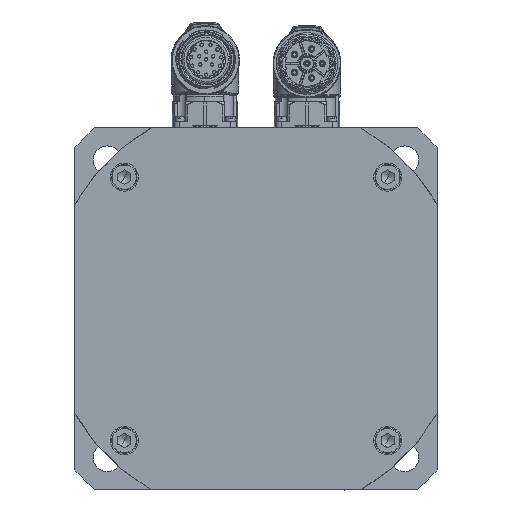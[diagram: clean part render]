
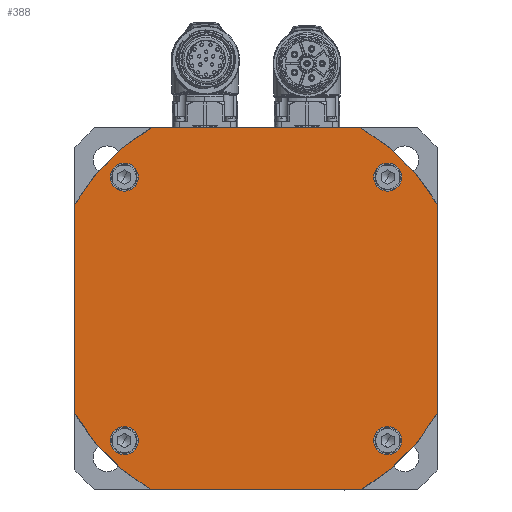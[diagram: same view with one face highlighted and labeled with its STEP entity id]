
A CAD part, left-side view. The second image highlights one B-rep face of the part: STEP entity #388.
In plain terms, the highlighted planar face has unit normal (-1, 0, 0).
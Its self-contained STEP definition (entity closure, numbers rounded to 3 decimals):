
#80=CARTESIAN_POINT('Cartesian Point',(0.,71.,41.024)) ;
#83=CARTESIAN_POINT('Axis2P3D Location',(0.,0.,0.)) ;
#87=CARTESIAN_POINT('Cartesian Point',(0.,41.024,71.)) ;
#246=CARTESIAN_POINT('Cartesian Point',(0.,71.,-41.024)) ;
#249=CARTESIAN_POINT('Line Origine',(0.,71.,0.)) ;
#261=CARTESIAN_POINT('Axis2P3D Location',(0.,0.,0.)) ;
#266=CARTESIAN_POINT('Line Origine',(0.,-71.,0.)) ;
#270=CARTESIAN_POINT('Cartesian Point',(0.,-71.,41.024)) ;
#272=CARTESIAN_POINT('Cartesian Point',(0.,-71.,-41.024)) ;
#275=CARTESIAN_POINT('Axis2P3D Location',(0.,0.,0.)) ;
#279=CARTESIAN_POINT('Cartesian Point',(0.,-41.024,71.)) ;
#282=CARTESIAN_POINT('Line Origine',(0.,0.,71.)) ;
#287=CARTESIAN_POINT('Axis2P3D Location',(0.,0.,0.)) ;
#291=CARTESIAN_POINT('Cartesian Point',(0.,41.024,-71.)) ;
#294=CARTESIAN_POINT('Line Origine',(0.,0.,-71.)) ;
#298=CARTESIAN_POINT('Cartesian Point',(0.,-41.024,-71.)) ;
#301=CARTESIAN_POINT('Axis2P3D Location',(0.,0.,0.)) ;
#316=CARTESIAN_POINT('Axis2P3D Location',(0.,-51.619,51.619)) ;
#320=CARTESIAN_POINT('Cartesian Point',(0.,-57.119,51.619)) ;
#322=CARTESIAN_POINT('Cartesian Point',(0.,-46.119,51.619)) ;
#325=CARTESIAN_POINT('Axis2P3D Location',(0.,-51.619,51.619)) ;
#334=CARTESIAN_POINT('Axis2P3D Location',(0.,51.619,51.619)) ;
#338=CARTESIAN_POINT('Cartesian Point',(0.,57.119,51.619)) ;
#340=CARTESIAN_POINT('Cartesian Point',(0.,46.119,51.619)) ;
#343=CARTESIAN_POINT('Axis2P3D Location',(0.,51.619,51.619)) ;
#352=CARTESIAN_POINT('Axis2P3D Location',(0.,-51.619,-51.619)) ;
#356=CARTESIAN_POINT('Cartesian Point',(0.,-57.119,-51.619)) ;
#358=CARTESIAN_POINT('Cartesian Point',(0.,-46.119,-51.619)) ;
#361=CARTESIAN_POINT('Axis2P3D Location',(0.,-51.619,-51.619)) ;
#370=CARTESIAN_POINT('Axis2P3D Location',(0.,51.619,-51.619)) ;
#374=CARTESIAN_POINT('Cartesian Point',(0.,57.119,-51.619)) ;
#376=CARTESIAN_POINT('Cartesian Point',(0.,46.119,-51.619)) ;
#379=CARTESIAN_POINT('Axis2P3D Location',(0.,51.619,-51.619)) ;
#84=DIRECTION('Axis2P3D Direction',(1.,0.,0.)) ;
#250=DIRECTION('Vector Direction',(0.,0.,1.)) ;
#262=DIRECTION('Axis2P3D Direction',(1.,0.,0.)) ;
#263=DIRECTION('Axis2P3D XDirection',(0.,1.,0.)) ;
#267=DIRECTION('Vector Direction',(0.,0.,-1.)) ;
#276=DIRECTION('Axis2P3D Direction',(1.,0.,0.)) ;
#283=DIRECTION('Vector Direction',(0.,1.,0.)) ;
#288=DIRECTION('Axis2P3D Direction',(1.,0.,0.)) ;
#295=DIRECTION('Vector Direction',(0.,-1.,0.)) ;
#302=DIRECTION('Axis2P3D Direction',(1.,0.,0.)) ;
#317=DIRECTION('Axis2P3D Direction',(1.,0.,0.)) ;
#326=DIRECTION('Axis2P3D Direction',(1.,0.,0.)) ;
#335=DIRECTION('Axis2P3D Direction',(1.,0.,0.)) ;
#344=DIRECTION('Axis2P3D Direction',(1.,0.,0.)) ;
#353=DIRECTION('Axis2P3D Direction',(1.,0.,0.)) ;
#362=DIRECTION('Axis2P3D Direction',(1.,0.,0.)) ;
#371=DIRECTION('Axis2P3D Direction',(1.,0.,0.)) ;
#380=DIRECTION('Axis2P3D Direction',(1.,0.,0.)) ;
#85=AXIS2_PLACEMENT_3D('Circle Axis2P3D',#83,#84,$) ;
#264=AXIS2_PLACEMENT_3D('Plane Axis2P3D',#261,#262,#263) ;
#277=AXIS2_PLACEMENT_3D('Circle Axis2P3D',#275,#276,$) ;
#289=AXIS2_PLACEMENT_3D('Circle Axis2P3D',#287,#288,$) ;
#303=AXIS2_PLACEMENT_3D('Circle Axis2P3D',#301,#302,$) ;
#318=AXIS2_PLACEMENT_3D('Circle Axis2P3D',#316,#317,$) ;
#327=AXIS2_PLACEMENT_3D('Circle Axis2P3D',#325,#326,$) ;
#336=AXIS2_PLACEMENT_3D('Circle Axis2P3D',#334,#335,$) ;
#345=AXIS2_PLACEMENT_3D('Circle Axis2P3D',#343,#344,$) ;
#354=AXIS2_PLACEMENT_3D('Circle Axis2P3D',#352,#353,$) ;
#363=AXIS2_PLACEMENT_3D('Circle Axis2P3D',#361,#362,$) ;
#372=AXIS2_PLACEMENT_3D('Circle Axis2P3D',#370,#371,$) ;
#381=AXIS2_PLACEMENT_3D('Circle Axis2P3D',#379,#380,$) ;
#307=ORIENTED_EDGE('Oriented Edge',*,*,#274,.F.) ;
#308=ORIENTED_EDGE('Oriented Edge',*,*,#281,.F.) ;
#309=ORIENTED_EDGE('Oriented Edge',*,*,#286,.F.) ;
#310=ORIENTED_EDGE('Oriented Edge',*,*,#89,.F.) ;
#311=ORIENTED_EDGE('Oriented Edge',*,*,#253,.F.) ;
#312=ORIENTED_EDGE('Oriented Edge',*,*,#293,.F.) ;
#313=ORIENTED_EDGE('Oriented Edge',*,*,#300,.F.) ;
#314=ORIENTED_EDGE('Oriented Edge',*,*,#305,.F.) ;
#331=ORIENTED_EDGE('Oriented Edge',*,*,#324,.F.) ;
#332=ORIENTED_EDGE('Oriented Edge',*,*,#329,.F.) ;
#349=ORIENTED_EDGE('Oriented Edge',*,*,#342,.F.) ;
#350=ORIENTED_EDGE('Oriented Edge',*,*,#347,.F.) ;
#367=ORIENTED_EDGE('Oriented Edge',*,*,#360,.F.) ;
#368=ORIENTED_EDGE('Oriented Edge',*,*,#365,.F.) ;
#385=ORIENTED_EDGE('Oriented Edge',*,*,#378,.F.) ;
#386=ORIENTED_EDGE('Oriented Edge',*,*,#383,.F.) ;
#333=FACE_BOUND('Face Bound',#330,.T.) ;
#351=FACE_BOUND('Face Bound',#348,.T.) ;
#369=FACE_BOUND('Face Bound',#366,.T.) ;
#387=FACE_BOUND('Face Bound',#384,.T.) ;
#251=VECTOR('Line Direction',#250,1.) ;
#268=VECTOR('Line Direction',#267,1.) ;
#284=VECTOR('Line Direction',#283,1.) ;
#296=VECTOR('Line Direction',#295,1.) ;
#388=ADVANCED_FACE('',(#315,#333,#351,#369,#387),#265,.F.) ;
#86=CIRCLE('generated circle',#85,82.) ;
#278=CIRCLE('generated circle',#277,82.) ;
#290=CIRCLE('generated circle',#289,82.) ;
#304=CIRCLE('generated circle',#303,82.) ;
#319=CIRCLE('generated circle',#318,5.5) ;
#328=CIRCLE('generated circle',#327,5.5) ;
#337=CIRCLE('generated circle',#336,5.5) ;
#346=CIRCLE('generated circle',#345,5.5) ;
#355=CIRCLE('generated circle',#354,5.5) ;
#364=CIRCLE('generated circle',#363,5.5) ;
#373=CIRCLE('generated circle',#372,5.5) ;
#382=CIRCLE('generated circle',#381,5.5) ;
#89=EDGE_CURVE('',#81,#88,#86,.T.) ;
#253=EDGE_CURVE('',#247,#81,#252,.T.) ;
#274=EDGE_CURVE('',#271,#273,#269,.T.) ;
#281=EDGE_CURVE('',#280,#271,#278,.T.) ;
#286=EDGE_CURVE('',#88,#280,#285,.F.) ;
#293=EDGE_CURVE('',#292,#247,#290,.T.) ;
#300=EDGE_CURVE('',#299,#292,#297,.F.) ;
#305=EDGE_CURVE('',#273,#299,#304,.T.) ;
#324=EDGE_CURVE('',#321,#323,#319,.F.) ;
#329=EDGE_CURVE('',#323,#321,#328,.F.) ;
#342=EDGE_CURVE('',#339,#341,#337,.F.) ;
#347=EDGE_CURVE('',#341,#339,#346,.F.) ;
#360=EDGE_CURVE('',#357,#359,#355,.F.) ;
#365=EDGE_CURVE('',#359,#357,#364,.F.) ;
#378=EDGE_CURVE('',#375,#377,#373,.F.) ;
#383=EDGE_CURVE('',#377,#375,#382,.F.) ;
#306=EDGE_LOOP('Oriented Loop',(#307,#308,#309,#310,#311,#312,#313,#314)) ;
#330=EDGE_LOOP('Oriented Loop',(#331,#332)) ;
#348=EDGE_LOOP('Oriented Loop',(#349,#350)) ;
#366=EDGE_LOOP('Oriented Loop',(#367,#368)) ;
#384=EDGE_LOOP('Oriented Loop',(#385,#386)) ;
#315=FACE_OUTER_BOUND('Face Bound',#306,.T.) ;
#252=LINE('Line',#249,#251) ;
#269=LINE('Line',#266,#268) ;
#285=LINE('Line',#282,#284) ;
#297=LINE('Line',#294,#296) ;
#265=PLANE('Plane',#264) ;
#81=VERTEX_POINT('Vertex Point',#80) ;
#88=VERTEX_POINT('Vertex Point',#87) ;
#247=VERTEX_POINT('Vertex Point',#246) ;
#271=VERTEX_POINT('Vertex Point',#270) ;
#273=VERTEX_POINT('Vertex Point',#272) ;
#280=VERTEX_POINT('Vertex Point',#279) ;
#292=VERTEX_POINT('Vertex Point',#291) ;
#299=VERTEX_POINT('Vertex Point',#298) ;
#321=VERTEX_POINT('Vertex Point',#320) ;
#323=VERTEX_POINT('Vertex Point',#322) ;
#339=VERTEX_POINT('Vertex Point',#338) ;
#341=VERTEX_POINT('Vertex Point',#340) ;
#357=VERTEX_POINT('Vertex Point',#356) ;
#359=VERTEX_POINT('Vertex Point',#358) ;
#375=VERTEX_POINT('Vertex Point',#374) ;
#377=VERTEX_POINT('Vertex Point',#376) ;
